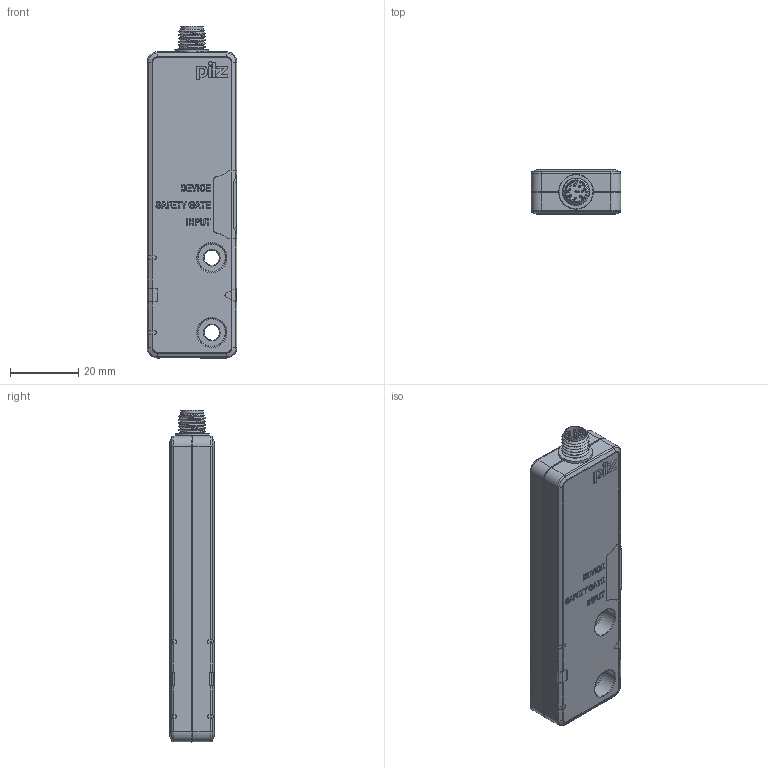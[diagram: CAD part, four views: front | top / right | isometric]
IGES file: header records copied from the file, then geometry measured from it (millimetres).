
Global section: file name: No Iges File Name specified; native system: Autodesk Inventor 2013; preprocessor: AutoDesk Inventor Iges Exporter R2013; author: aschlecht; date: 20140908.130247; units: millimetre
Bounding box: 26.4 x 13.04 x 97.6 mm (x, y, z)
Volume: 29402 mm3; surface area: 8555.1 mm2
Topology: 1 solids, 1 shells, 1207 faces, 3322 edges, 2197 vertices
Faces by surface type: bspline 1207
